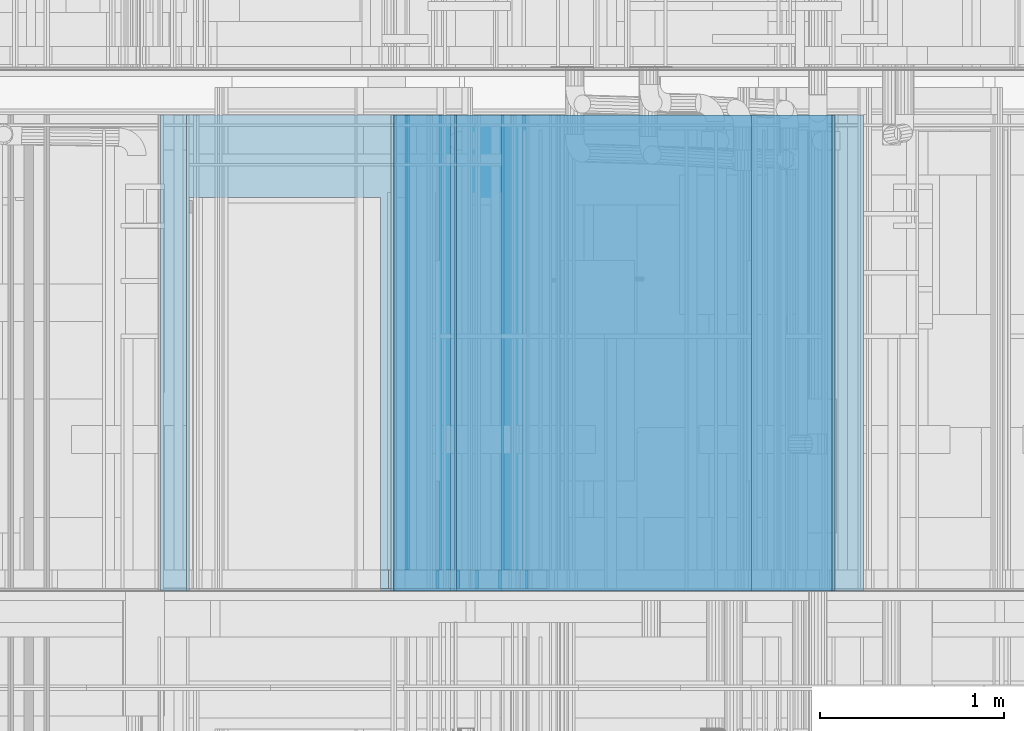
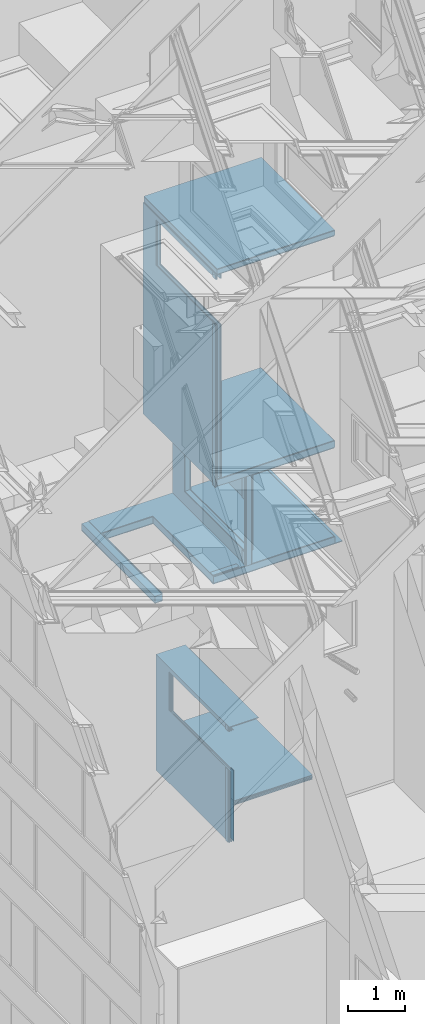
# One storey, part 95 of 583: 33 building element parts, 7 openings, 8 elements without a shape of their own.
"""IFC2X3 building model written with IfcOpenShell, lengths in metres."""

from ifc_helpers import new_model, entity, si_unit, converted_unit, derived_unit, money_unit, direction, frame, frame_2d, origin_with_axes, place, context, subcontext, project, spatial, polyline, rectangle, outline, extrude, material, type_object, element, aggregate, save


model = new_model("IFC2X3")

# Units and contexts
model_context = context("Model", 3, precision=1e-05, world=origin_with_axes(), true_north=direction((0.0, 1.0)))
body_context = subcontext(model_context, "Body", "Model", "MODEL_VIEW", scale=1.0)
ifc_project = project(units=[si_unit("LENGTHUNIT", "METRE"), si_unit("AREAUNIT", "SQUARE_METRE"), si_unit("VOLUMEUNIT", "CUBIC_METRE"), si_unit("ABSORBEDDOSEUNIT", "GRAY"), si_unit("AMOUNTOFSUBSTANCEUNIT", "MOLE"), si_unit("DOSEEQUIVALENTUNIT", "SIEVERT"), si_unit("ELECTRICCAPACITANCEUNIT", "FARAD"), si_unit("ELECTRICCHARGEUNIT", "COULOMB"), si_unit("ELECTRICCONDUCTANCEUNIT", "SIEMENS"), si_unit("ELECTRICCURRENTUNIT", "AMPERE"), si_unit("ELECTRICRESISTANCEUNIT", "OHM"), si_unit("ELECTRICVOLTAGEUNIT", "VOLT"), si_unit("ENERGYUNIT", "JOULE"), si_unit("FORCEUNIT", "NEWTON"), si_unit("FREQUENCYUNIT", "HERTZ"), si_unit("ILLUMINANCEUNIT", "LUX"), si_unit("INDUCTANCEUNIT", "HENRY"), si_unit("LUMINOUSFLUXUNIT", "LUMEN"), si_unit("LUMINOUSINTENSITYUNIT", "CANDELA"), si_unit("MAGNETICFLUXDENSITYUNIT", "TESLA"), si_unit("MAGNETICFLUXUNIT", "WEBER"), si_unit("MASSUNIT", "GRAM"), converted_unit("PLANEANGLEUNIT", "degree", entity("IfcReal", 0.0174532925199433), si_unit("PLANEANGLEUNIT", "RADIAN"), dimensions=[0, 0, 0, 0, 0, 0, 0]), si_unit("POWERUNIT", "WATT"), si_unit("PRESSUREUNIT", "PASCAL"), si_unit("RADIOACTIVITYUNIT", "BECQUEREL"), si_unit("SOLIDANGLEUNIT", "STERADIAN"), si_unit("THERMODYNAMICTEMPERATUREUNIT", "KELVIN"), si_unit("TIMEUNIT", "SECOND"), derived_unit("ACCELERATIONUNIT", [(si_unit("LENGTHUNIT", "METRE"), 1), (si_unit("TIMEUNIT", "SECOND"), -2)]), derived_unit("ANGULARVELOCITYUNIT", [(converted_unit("PLANEANGLEUNIT", "degree", entity("IfcReal", 0.0174532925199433), si_unit("PLANEANGLEUNIT", "RADIAN"), dimensions=[0, 0, 0, 0, 0, 0, 0]), 1), (si_unit("TIMEUNIT", "SECOND"), -1)]), derived_unit("CURVATUREUNIT", [(converted_unit("PLANEANGLEUNIT", "degree", entity("IfcReal", 0.0174532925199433), si_unit("PLANEANGLEUNIT", "RADIAN"), dimensions=[0, 0, 0, 0, 0, 0, 0]), 1), (si_unit("LENGTHUNIT", "METRE"), -1)]), derived_unit("DYNAMICVISCOSITYUNIT", [(si_unit("PRESSUREUNIT", "PASCAL"), 1), (si_unit("TIMEUNIT", "SECOND"), 1)]), derived_unit("HEATFLUXDENSITYUNIT", [(si_unit("POWERUNIT", "WATT"), 1), (si_unit("LENGTHUNIT", "METRE"), -2)]), derived_unit("HEATINGVALUEUNIT", [(si_unit("ENERGYUNIT", "JOULE"), 1), (si_unit("MASSUNIT", "GRAM"), -1)]), derived_unit("INTEGERCOUNTRATEUNIT", [(si_unit("TIMEUNIT", "SECOND"), -1)]), derived_unit("IONCONCENTRATIONUNIT", [(si_unit("MASSUNIT", "GRAM"), 1), (si_unit("VOLUMEUNIT", "CUBIC_METRE"), -1)]), derived_unit("ISOTHERMALMOISTURECAPACITYUNIT", [(si_unit("VOLUMEUNIT", "CUBIC_METRE"), 1), (si_unit("MASSUNIT", "GRAM"), -1)]), derived_unit("KINEMATICVISCOSITYUNIT", [(si_unit("AREAUNIT", "SQUARE_METRE"), 1), (si_unit("TIMEUNIT", "SECOND"), -1)]), derived_unit("LINEARFORCEUNIT", [(si_unit("FORCEUNIT", "NEWTON"), 1), (si_unit("LENGTHUNIT", "METRE"), -1)]), derived_unit("LINEARMOMENTUNIT", [(si_unit("FORCEUNIT", "NEWTON"), 1), (si_unit("LENGTHUNIT", "METRE"), -1)]), derived_unit("LINEARSTIFFNESSUNIT", [(si_unit("FORCEUNIT", "NEWTON"), 1), (si_unit("LENGTHUNIT", "METRE"), -1)]), derived_unit("LINEARVELOCITYUNIT", [(si_unit("LENGTHUNIT", "METRE"), 1), (si_unit("TIMEUNIT", "SECOND"), -1)]), derived_unit("LUMINOUSINTENSITYDISTRIBUTIONUNIT", [(si_unit("LUMINOUSINTENSITYUNIT", "CANDELA"), 1), (si_unit("LUMINOUSFLUXUNIT", "LUMEN"), -1)]), derived_unit("MASSDENSITYUNIT", [(si_unit("MASSUNIT", "GRAM"), 1), (si_unit("VOLUMEUNIT", "CUBIC_METRE"), -1)]), derived_unit("MASSFLOWRATEUNIT", [(si_unit("MASSUNIT", "GRAM"), 1), (si_unit("TIMEUNIT", "SECOND"), -1)]), derived_unit("MASSPERLENGTHUNIT", [(si_unit("MASSUNIT", "GRAM"), 1), (si_unit("LENGTHUNIT", "METRE"), -1)]), derived_unit("MODULUSOFELASTICITYUNIT", [(si_unit("FORCEUNIT", "NEWTON"), 1), (si_unit("AREAUNIT", "SQUARE_METRE"), -1)]), derived_unit("MODULUSOFLINEARSUBGRADEREACTIONUNIT", [(si_unit("FORCEUNIT", "NEWTON"), 1), (si_unit("LENGTHUNIT", "METRE"), -2)]), derived_unit("MODULUSOFROTATIONALSUBGRADEREACTIONUNIT", [(si_unit("FORCEUNIT", "NEWTON"), 1), (si_unit("LENGTHUNIT", "METRE"), 1)]), derived_unit("MODULUSOFSUBGRADEREACTIONUNIT", [(si_unit("FORCEUNIT", "NEWTON"), 1), (si_unit("VOLUMEUNIT", "CUBIC_METRE"), -1)]), derived_unit("MOISTUREDIFFUSIVITYUNIT", [(si_unit("VOLUMEUNIT", "CUBIC_METRE"), 1), (si_unit("TIMEUNIT", "SECOND"), -1)]), derived_unit("MOLECULARWEIGHTUNIT", [(si_unit("MASSUNIT", "GRAM"), 1), (si_unit("AMOUNTOFSUBSTANCEUNIT", "MOLE"), -1)]), derived_unit("PLANARFORCEUNIT", [(si_unit("FORCEUNIT", "NEWTON"), 1), (si_unit("LENGTHUNIT", "METRE"), -2)]), derived_unit("ROTATIONALFREQUENCYUNIT", [(si_unit("TIMEUNIT", "SECOND"), -1)]), derived_unit("ROTATIONALMASSUNIT", [(si_unit("MASSUNIT", "GRAM"), 1), (si_unit("LENGTHUNIT", "METRE"), 2)]), derived_unit("ROTATIONALSTIFFNESSUNIT", [(si_unit("FORCEUNIT", "NEWTON"), 1), (si_unit("LENGTHUNIT", "METRE"), 1), (converted_unit("PLANEANGLEUNIT", "degree", entity("IfcReal", 0.0174532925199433), si_unit("PLANEANGLEUNIT", "RADIAN"), dimensions=[0, 0, 0, 0, 0, 0, 0]), -1)]), derived_unit("SECTIONAREAINTEGRALUNIT", [(si_unit("LENGTHUNIT", "METRE"), 5)]), derived_unit("SECTIONMODULUSUNIT", [(si_unit("LENGTHUNIT", "METRE"), 3)]), derived_unit("SHEARMODULUSUNIT", [(si_unit("FORCEUNIT", "NEWTON"), 1), (si_unit("AREAUNIT", "SQUARE_METRE"), -1)]), derived_unit("SOUNDPOWERUNIT", [(si_unit("ENERGYUNIT", "JOULE"), 1), (si_unit("TIMEUNIT", "SECOND"), -1)]), derived_unit("SPECIFICHEATCAPACITYUNIT", [(si_unit("FORCEUNIT", "NEWTON"), 1), (si_unit("MASSUNIT", "GRAM"), -1), (si_unit("THERMODYNAMICTEMPERATUREUNIT", "KELVIN"), -1)]), derived_unit("TEMPERATUREGRADIENTUNIT", [(si_unit("THERMODYNAMICTEMPERATUREUNIT", "KELVIN"), 1), (si_unit("LENGTHUNIT", "METRE"), -1)]), derived_unit("THERMALADMITTANCEUNIT", [(si_unit("POWERUNIT", "WATT"), 1), (si_unit("AREAUNIT", "SQUARE_METRE"), -1), (si_unit("THERMODYNAMICTEMPERATUREUNIT", "KELVIN"), -1)]), derived_unit("THERMALCONDUCTANCEUNIT", [(si_unit("POWERUNIT", "WATT"), 1), (si_unit("LENGTHUNIT", "METRE"), -1), (si_unit("THERMODYNAMICTEMPERATUREUNIT", "KELVIN"), -1)]), derived_unit("THERMALEXPANSIONCOEFFICIENTUNIT", [(si_unit("THERMODYNAMICTEMPERATUREUNIT", "KELVIN"), -1)]), derived_unit("THERMALRESISTANCEUNIT", [(si_unit("AREAUNIT", "SQUARE_METRE"), 1), (si_unit("POWERUNIT", "WATT"), -1)]), derived_unit("THERMALTRANSMITTANCEUNIT", [(si_unit("POWERUNIT", "WATT"), 1), (si_unit("AREAUNIT", "SQUARE_METRE"), -1), (si_unit("THERMODYNAMICTEMPERATUREUNIT", "KELVIN"), -1)]), derived_unit("TORQUEUNIT", [(si_unit("FORCEUNIT", "NEWTON"), 1), (si_unit("LENGTHUNIT", "METRE"), 1)]), derived_unit("VAPORPERMEABILITYUNIT", [(si_unit("MASSUNIT", "GRAM"), 1), (si_unit("TIMEUNIT", "SECOND"), -1)]), derived_unit("VOLUMETRICFLOWRATEUNIT", [(si_unit("VOLUMEUNIT", "CUBIC_METRE"), 1), (si_unit("TIMEUNIT", "SECOND"), -1)]), derived_unit("WARPINGCONSTANTUNIT", [(si_unit("LENGTHUNIT", "METRE"), 6)]), derived_unit("WARPINGMOMENTUNIT", [(si_unit("FORCEUNIT", "NEWTON"), 1), (si_unit("LENGTHUNIT", "METRE"), 2)]), money_unit("GBP")], contexts=[model_context])

# Site, building, storey
site_placement = place(None, origin_with_axes())
site = spatial("IfcSite", under=ifc_project, at=site_placement, Name="Site", CompositionType="ELEMENT")
building_placement = place(site_placement, origin_with_axes())
building = spatial("IfcBuilding", under=site, at=building_placement, Name="Building01", CompositionType="ELEMENT")
storey_placement = place(building_placement, frame((0.0, 0.0, 20.78), z_axis=(0.0, 0.0, 1.0), x_axis=(1.0, 0.0, 0.0)))
storey = spatial("IfcBuildingStorey", under=building, at=storey_placement, Name="RL", CompositionType="ELEMENT", Elevation=20.78)

# Wall, openings, building element parts
wall_type_1 = type_object("IfcWallType", Name="SHE_A-Walls_Type03a_BlockworkWall_170mm", PredefinedType="NOTDEFINED")
wall_1_placement = place(storey_placement, frame((8.665, 12.13, -11.705), z_axis=(0.0, 1.0, 0.0), x_axis=(-1.0, 0.0, 0.0)))
wall_1 = element("IfcWall", 1, at=wall_1_placement, inside=storey, type_object=wall_type_1, Name="4B", ObjectType="SHE_A-Walls_Type03a_BlockworkWall_170mm")
opening_1_placement = place(wall_1_placement, frame((2.527281, 0.175, 0.0), z_axis=(0.0, 0.0, 1.0), x_axis=(1.0, 0.0, 0.0)))
element("IfcOpeningElement", 2, at=opening_1_placement, cuts=wall_1, Name="Opening", ObjectType="Opening", context=body_context, shape_type="SweptSolid", body=[
    extrude(rectangle(XDim=0.984, YDim=2.142, at=frame_2d((-0.492, 1.071), x_axis=(1.0, 0.0))), frame((0.0, -0.2625, 0.0), z_axis=(0.0, 1.0, 0.0), x_axis=(-1.0, 0.0, 0.0)), (0.0, 0.0, 1.0), 0.525),
])
opening_2_placement = place(wall_1_placement, frame((2.473, 0.155, 0.0), z_axis=(0.0, 0.0, 1.0), x_axis=(1.0, 0.0, 0.0)))
element("IfcOpeningElement", 3, at=opening_2_placement, cuts=wall_1, Name="Opening", ObjectType="Opening", context=body_context, shape_type="SweptSolid", body=[
    extrude(rectangle(XDim=2.142, YDim=0.984, at=frame_2d((-0.492, 1.071), x_axis=(0.0, -1.0))), frame((0.0, -0.2325, 0.0), z_axis=(0.0, 1.0, 0.0), x_axis=(-1.0, 0.0, 0.0)), (0.0, 0.0, 1.0), 0.465),
])
ifc_material_1 = material(Name="A_BSUK_WallsInternal_Block")
placement_1 = place(wall_1_placement, origin_with_axes())
building_element_part_1 = element("IfcBuildingElementPart", 4, at=placement_1, material=ifc_material_1, Name="1", context=body_context, shape_type="SweptSolid", body=[
    extrude(rectangle(XDim=3.67, YDim=0.14, at=frame_2d((1.835, 0.07), x_axis=(-1.0, 0.0))), origin_with_axes(), (0.0, 0.0, 1.0), 2.59),
])
ifc_material_2 = material(Name="A_BSUK_Walls_Timber")
building_element_part_2 = element("IfcBuildingElementPart", 5, at=placement_1, material=ifc_material_2, Name="2", context=body_context, shape_type="SweptSolid", body=[
    extrude(outline(polyline([(3.5, 0.17), (1.940919, 0.17), (1.955919, 0.155), (3.5, 0.155), (3.5, 0.17)])), frame((0.0, 0.0, 0.015), z_axis=(0.0, 0.0, 1.0), x_axis=(1.0, 0.0, 0.0)), (0.0, 0.0, 1.0), 0.1),
])
ifc_material_3 = material(Name="A_BSUK_WallInternal_Finishes_Plaster")
building_element_part_3 = element("IfcBuildingElementPart", 6, at=placement_1, material=ifc_material_3, Name="3", context=body_context, shape_type="SweptSolid", body=[
    extrude(rectangle(XDim=1.67, YDim=0.015, at=frame_2d((0.85, 0.1475), x_axis=(-1.0, 0.0))), origin_with_axes(), (0.0, 0.0, 1.0), 2.59),
])
ifc_material_4 = material(Name="A_BSUK_WallInternal_Finishes_Plasterboard")
building_element_part_4 = element("IfcBuildingElementPart", 7, at=placement_1, material=ifc_material_4, Name="4", context=body_context, shape_type="SweptSolid", body=[
    extrude(rectangle(XDim=3.825, YDim=0.015, at=frame_2d((1.7575, -0.0075), x_axis=(-1.0, 0.0))), origin_with_axes(), (0.0, 0.0, 1.0), 2.59),
])
building_element_part_5 = element("IfcBuildingElementPart", 8, at=placement_1, material=ifc_material_2, Name="5", context=body_context, shape_type="SweptSolid", body=[
    extrude(rectangle(XDim=1.883405, YDim=0.015, at=frame_2d((2.503298, -0.0225), x_axis=(-1.0, 0.0))), frame((0.0, 0.0, 0.015), z_axis=(0.0, 0.0, 1.0), x_axis=(1.0, 0.0, 0.0)), (0.0, 0.0, 1.0), 0.1),
])
building_element_part_6 = element("IfcBuildingElementPart", 9, at=placement_1, material=ifc_material_3, Name="6", context=body_context, shape_type="SweptSolid", body=[
    extrude(rectangle(XDim=1.715, YDim=0.015, at=frame_2d((2.6725, 0.1475), x_axis=(-1.0, 0.0))), origin_with_axes(), (0.0, 0.0, 1.0), 2.59),
])
aggregate(wall_1, [building_element_part_1, building_element_part_2, building_element_part_3, building_element_part_4, building_element_part_5, building_element_part_6])

wall_type_2 = type_object("IfcWallType", Name="SHE_A-Walls_Type04a_BlockworkWall_130mm", PredefinedType="NOTDEFINED")
wall_2_placement = place(storey_placement, frame((6.965, 12.13, -9.635), z_axis=(0.0, 1.0, 0.0), x_axis=(0.0, 0.0, -1.0)))
wall_2 = element("IfcWall", 10, at=wall_2_placement, inside=storey, type_object=wall_type_2, Name="4A", ObjectType="SHE_A-Walls_Type04a_BlockworkWall_130mm")
opening_3_placement = place(wall_2_placement, frame((0.553302, 0.286454, 0.03), z_axis=(0.0, 0.0, 1.0), x_axis=(1.0, 0.0, 0.0)))
element("IfcOpeningElement", 11, at=opening_3_placement, cuts=wall_2, Name="Opening", ObjectType="Opening", context=body_context, shape_type="SweptSolid", body=[
    extrude(rectangle(XDim=2.14, YDim=1.08, at=frame_2d((-0.54, 1.07), x_axis=(0.0, -1.0))), frame((0.0, -0.429681, 0.0), z_axis=(0.0, 1.0, 0.0), x_axis=(-1.0, 0.0, 0.0)), (0.0, 0.0, 1.0), 0.859361),
])
opening_4_placement = place(wall_2_placement, frame((0.5, 0.14, 0.03), z_axis=(0.0, 0.0, 1.0), x_axis=(1.0, 0.0, 0.0)))
element("IfcOpeningElement", 12, at=opening_4_placement, cuts=wall_2, Name="Opening", ObjectType="Opening", context=body_context, shape_type="SweptSolid", body=[
    extrude(rectangle(XDim=2.14, YDim=1.08, at=frame_2d((-0.54, 1.07), x_axis=(0.0, -1.0))), frame((0.0, -0.21, 0.0), z_axis=(0.0, 1.0, 0.0), x_axis=(-1.0, 0.0, 0.0)), (0.0, 0.0, 1.0), 0.42),
])
placement_2 = place(wall_2_placement, origin_with_axes())
building_element_part_7 = element("IfcBuildingElementPart", 13, at=placement_2, material=ifc_material_1, Name="1", context=body_context, shape_type="SweptSolid", body=[
    extrude(rectangle(XDim=1.93, YDim=0.1, at=frame_2d((0.965, 0.05), x_axis=(-1.0, 0.0))), origin_with_axes(), (0.0, 0.0, 1.0), 2.59),
])
building_element_part_8 = element("IfcBuildingElementPart", 14, at=placement_2, material=ifc_material_2, Name="2", context=body_context, shape_type="SweptSolid", body=[
    extrude(outline(polyline([(1.9, 0.13), (0.03, 0.13), (0.015, 0.115), (1.9, 0.115), (1.9, 0.13)])), frame((0.0, 0.0, 0.015), z_axis=(0.0, 0.0, 1.0), x_axis=(1.0, 0.0, 0.0)), (0.0, 0.0, 1.0), 0.1),
])
building_element_part_9 = element("IfcBuildingElementPart", 15, at=placement_2, material=ifc_material_3, Name="3", context=body_context, shape_type="SweptSolid", body=[
    extrude(outline(polyline([(1.93, 0.115), (0.015, 0.115), (0.0, 0.1), (1.93, 0.1), (1.93, 0.115)])), origin_with_axes(), (0.0, 0.0, 1.0), 2.59),
])
building_element_part_10 = element("IfcBuildingElementPart", 16, at=placement_2, material=ifc_material_4, Name="4", context=body_context, shape_type="SweptSolid", body=[
    extrude(outline(polyline([(1.93, 0.0), (0.0, 0.0), (0.015, -0.015), (1.93, -0.015), (1.93, 0.0)])), origin_with_axes(), (0.0, 0.0, 1.0), 2.59),
])
building_element_part_11 = element("IfcBuildingElementPart", 17, at=placement_2, material=ifc_material_2, Name="5", context=body_context, shape_type="SweptSolid", body=[
    extrude(outline(polyline([(0.0, -0.015), (0.015, -0.03), (1.633302, -0.03), (1.633302, -0.015), (0.0, -0.015)])), frame((0.0, 0.0, 0.015), z_axis=(0.0, 0.0, 1.0), x_axis=(1.0, 0.0, 0.0)), (0.0, 0.0, 1.0), 0.1),
])
aggregate(wall_2, [building_element_part_7, building_element_part_8, building_element_part_9, building_element_part_10, building_element_part_11])

# Wall, building element parts
wall_3_placement = place(storey_placement, frame((6.263, 12.13, -9.635), z_axis=(0.0, 1.0, 0.0), x_axis=(1.0, 0.0, 0.0)))
wall_3 = element("IfcWall", 18, at=wall_3_placement, inside=storey, type_object=wall_type_1, Name="4B", ObjectType="SHE_A-Walls_Type03a_BlockworkWall_170mm")
placement_3 = place(wall_3_placement, origin_with_axes())
building_element_part_12 = element("IfcBuildingElementPart", 19, at=placement_3, material=ifc_material_1, Name="1", context=body_context, shape_type="SweptSolid", body=[
    extrude(rectangle(XDim=2.402, YDim=0.14, at=frame_2d((1.201, -0.07), x_axis=(-1.0, 0.0))), origin_with_axes(), (0.0, 0.0, 1.0), 2.59),
])
building_element_part_13 = element("IfcBuildingElementPart", 20, at=placement_3, material=ifc_material_4, Name="4", context=body_context, shape_type="SweptSolid", body=[
    extrude(rectangle(XDim=2.387, YDim=0.015, at=frame_2d((1.1935, -0.1475), x_axis=(-1.0, 0.0))), origin_with_axes(), (0.0, 0.0, 1.0), 2.59),
])
building_element_part_14 = element("IfcBuildingElementPart", 21, at=placement_3, material=ifc_material_3, Name="6", context=body_context, shape_type="SweptSolid", body=[
    extrude(outline(polyline([(2.387, 0.015), (0.717, 0.015), (0.702, 0.0), (2.387, 0.0), (2.387, 0.015)])), origin_with_axes(), (0.0, 0.0, 1.0), 2.59),
])
aggregate(wall_3, [building_element_part_12, building_element_part_13, building_element_part_14])

wall_type_3 = type_object("IfcWallType", Name="SHE_A-Walls_Type05a_Partition_95mm_tall", PredefinedType="NOTDEFINED")
wall_4_placement = place(storey_placement, frame((6.571475, 12.13, -16.57427), z_axis=(0.0, 1.0, 0.0), x_axis=(1.0, 0.0, 0.0)))
wall_4 = element("IfcWall", 22, at=wall_4_placement, inside=storey, type_object=wall_type_3, Name="5A", ObjectType="SHE_A-Walls_Type05a_Partition_95mm_tall")
ifc_material_5 = material(Name="A_BSUK_Insulation")
placement_4 = place(wall_4_placement, origin_with_axes())
building_element_part_15 = element("IfcBuildingElementPart", 23, at=placement_4, material=ifc_material_5, Name="1", context=body_context, shape_type="SweptSolid", body=[
    extrude(rectangle(XDim=1.639195, YDim=0.025, at=frame_2d((0.819597, 0.0125), x_axis=(-1.0, 0.0))), origin_with_axes(), (0.0, 0.0, 1.0), 2.59),
])
building_element_part_16 = element("IfcBuildingElementPart", 24, at=placement_4, material=ifc_material_4, Name="4", context=body_context, shape_type="SweptSolid", body=[
    extrude(rectangle(XDim=1.604195, YDim=0.012, at=frame_2d((0.837097, 0.054), x_axis=(-1.0, 0.0))), origin_with_axes(), (0.0, 0.0, 1.0), 2.59),
])
building_element_part_17 = element("IfcBuildingElementPart", 25, at=placement_4, material=ifc_material_4, Name="5", context=body_context, shape_type="SweptSolid", body=[
    extrude(rectangle(XDim=1.604195, YDim=0.012, at=frame_2d((0.837097, -0.029), x_axis=(-1.0, 0.0))), origin_with_axes(), (0.0, 0.0, 1.0), 2.59),
])
aggregate(wall_4, [building_element_part_15, building_element_part_16, building_element_part_17])

wall_5_placement = place(storey_placement, frame((8.665, 12.13, -5.065), z_axis=(0.0, 1.0, 0.0), x_axis=(-1.0, 0.0, 0.0)))
wall_5 = element("IfcWall", 26, at=wall_5_placement, inside=storey, type_object=wall_type_2, Name="4A", ObjectType="SHE_A-Walls_Type04a_BlockworkWall_130mm")
placement_5 = place(wall_5_placement, origin_with_axes())
building_element_part_18 = element("IfcBuildingElementPart", 27, at=placement_5, material=ifc_material_1, Name="1", context=body_context, shape_type="SweptSolid", body=[
    extrude(rectangle(XDim=0.1, YDim=2.4, at=frame_2d((1.2, 0.05), x_axis=(0.0, -1.0))), origin_with_axes(), (0.0, 0.0, 1.0), 2.59),
])
building_element_part_19 = element("IfcBuildingElementPart", 28, at=placement_5, material=ifc_material_3, Name="3", context=body_context, shape_type="SweptSolid", body=[
    extrude(rectangle(XDim=0.015, YDim=2.4, at=frame_2d((1.2, 0.1075), x_axis=(0.0, -1.0))), origin_with_axes(), (0.0, 0.0, 1.0), 2.59),
])
building_element_part_20 = element("IfcBuildingElementPart", 29, at=placement_5, material=ifc_material_4, Name="4", context=body_context, shape_type="SweptSolid", body=[
    extrude(rectangle(XDim=2.385, YDim=0.015, at=frame_2d((1.2075, -0.0075), x_axis=(-1.0, 0.0))), origin_with_axes(), (0.0, 0.0, 1.0), 2.59),
])
aggregate(wall_5, [building_element_part_18, building_element_part_19, building_element_part_20])

# Wall, openings, building element parts
wall_6_placement = place(storey_placement, frame((6.571475, 12.13, -14.950331), z_axis=(0.0, 1.0, 0.0), x_axis=(0.0, 0.0, -1.0)))
wall_6 = element("IfcWall", 30, at=wall_6_placement, inside=storey, type_object=wall_type_3, Name="5A", ObjectType="SHE_A-Walls_Type05a_Partition_95mm_tall")
opening_5_placement = place(wall_6_placement, frame((0.058581, -0.115, -0.015), z_axis=(0.0, 0.0, 1.0), x_axis=(1.0, 0.0, 0.0)))
element("IfcOpeningElement", 31, at=opening_5_placement, cuts=wall_6, Name="Opening", ObjectType="Opening", context=body_context, shape_type="SweptSolid", body=[
    extrude(rectangle(XDim=0.834, YDim=2.142, at=frame_2d((0.417, 1.071), x_axis=(-1.0, 0.0))), frame((0.0, 0.21, 0.0), z_axis=(0.0, -1.0, 0.0), x_axis=(1.0, 0.0, 0.0)), (0.0, 0.0, 1.0), 0.42),
])
opening_6_placement = place(wall_6_placement, frame((0.108581, -0.035, 0.0), z_axis=(0.0, 0.0, 1.0), x_axis=(1.0, 0.0, 0.0)))
element("IfcOpeningElement", 32, at=opening_6_placement, cuts=wall_6, Name="Opening", ObjectType="Opening", context=body_context, shape_type="SweptSolid", body=[
    extrude(rectangle(XDim=2.142, YDim=0.834, at=frame_2d((0.417, 1.071), x_axis=(0.0, -1.0))), frame((0.0, 0.09, 0.0), z_axis=(0.0, -1.0, 0.0), x_axis=(1.0, 0.0, 0.0)), (0.0, 0.0, 1.0), 0.18),
])
placement_6 = place(wall_6_placement, origin_with_axes())
building_element_part_21 = element("IfcBuildingElementPart", 33, at=placement_6, material=ifc_material_5, Name="1", context=body_context, shape_type="SweptSolid", body=[
    extrude(rectangle(XDim=0.025, YDim=2.458939, at=frame_2d((1.229469, 0.0125), x_axis=(0.0, -1.0))), origin_with_axes(), (0.0, 0.0, 1.0), 2.59),
])
building_element_part_22 = element("IfcBuildingElementPart", 34, at=placement_6, material=ifc_material_2, Name="2", context=body_context, shape_type="SweptSolid", body=[
    extrude(outline(polyline([(-0.05, 0.075), (-0.035, 0.06), (2.458939, 0.06), (2.458939, 0.075), (-0.05, 0.075)])), frame((0.0, 0.0, 0.015), z_axis=(0.0, 0.0, 1.0), x_axis=(1.0, 0.0, 0.0)), (0.0, 0.0, 1.0), 0.1),
])
building_element_part_23 = element("IfcBuildingElementPart", 35, at=placement_6, material=ifc_material_2, Name="3", context=body_context, shape_type="SweptSolid", body=[
    extrude(outline(polyline([(1.588939, -0.035), (0.06, -0.035), (0.075, -0.05), (1.588939, -0.05), (1.588939, -0.035)])), frame((0.0, 0.0, 0.015), z_axis=(0.0, 0.0, 1.0), x_axis=(1.0, 0.0, 0.0)), (0.0, 0.0, 1.0), 0.1),
])
building_element_part_24 = element("IfcBuildingElementPart", 36, at=placement_6, material=ifc_material_2, Name="4", context=body_context, shape_type="SweptSolid", body=[
    extrude(outline(polyline([(0.06, -0.035), (0.075, -0.05), (2.458939, -0.05), (2.458939, -0.035), (0.06, -0.035)])), frame((0.0, 0.0, 0.015), z_axis=(0.0, 0.0, 1.0), x_axis=(1.0, 0.0, 0.0)), (0.0, 0.0, 1.0), 0.1),
])
building_element_part_25 = element("IfcBuildingElementPart", 37, at=placement_6, material=ifc_material_4, Name="5", context=body_context, shape_type="SweptSolid", body=[
    extrude(outline(polyline([(-0.035, 0.06), (-0.023, 0.048), (2.458939, 0.048), (2.458939, 0.06), (-0.035, 0.06)])), origin_with_axes(), (0.0, 0.0, 1.0), 2.59),
])
building_element_part_26 = element("IfcBuildingElementPart", 38, at=placement_6, material=ifc_material_4, Name="6", context=body_context, shape_type="SweptSolid", body=[
    extrude(outline(polyline([(1.600939, -0.023), (0.048, -0.023), (0.06, -0.035), (1.600939, -0.035), (1.600939, -0.023)])), origin_with_axes(), (0.0, 0.0, 1.0), 2.59),
])
building_element_part_27 = element("IfcBuildingElementPart", 39, at=placement_6, material=ifc_material_4, Name="7", context=body_context, shape_type="SweptSolid", body=[
    extrude(rectangle(XDim=0.012, YDim=0.787, at=frame_2d((2.065439, -0.029), x_axis=(0.0, -1.0))), origin_with_axes(), (0.0, 0.0, 1.0), 2.59),
])
aggregate(wall_6, [building_element_part_21, building_element_part_22, building_element_part_23, building_element_part_24, building_element_part_25, building_element_part_26, building_element_part_27])

# Wall, building element part
wall_7_placement = place(storey_placement, frame((6.571475, 12.13, -14.975331), z_axis=(0.0, 1.0, 0.0), x_axis=(1.0, 0.0, 0.0)))
wall_7 = element("IfcWall", 40, at=wall_7_placement, inside=storey, type_object=wall_type_3, Name="5A", ObjectType="SHE_A-Walls_Type05a_Partition_95mm_tall")
building_element_part_28_placement = place(wall_7_placement, origin_with_axes())
building_element_part_28 = element("IfcBuildingElementPart", 41, at=building_element_part_28_placement, material=ifc_material_4, Name="4", context=body_context, shape_type="SweptSolid", body=[
    extrude(outline(polyline([(0.552, -0.048), (-0.048, -0.048), (-0.06, -0.06), (0.54, -0.06), (0.552, -0.048)])), origin_with_axes(), (0.0, 0.0, 1.0), 2.59),
])
aggregate(wall_7, [building_element_part_28])

# Wall, opening, building element parts
wall_type_4 = type_object("IfcWallType", Name="SHE_A-Walls_Type03c_Firewall_F120_100mm", PredefinedType="NOTDEFINED")
wall_8_placement = place(storey_placement, frame((6.25, 12.145, -9.665), z_axis=(0.0, 1.0, 0.0), x_axis=(0.0, 0.0, 1.0)))
wall_8 = element("IfcWall", 42, at=wall_8_placement, inside=storey, type_object=wall_type_4, Name="3C", ObjectType="SHE_A-Walls_Type03c_Firewall_F120_100mm")
opening_7_placement = place(wall_8_placement, frame((3.501, 0.2, -0.03), z_axis=(0.0, 0.0, 1.0), x_axis=(1.0, 0.0, 0.0)))
element("IfcOpeningElement", 43, at=opening_7_placement, cuts=wall_8, Name="Opening", ObjectType="Opening", context=body_context, shape_type="SweptSolid", body=[
    extrude(rectangle(XDim=0.984, YDim=2.142, at=frame_2d((-0.492, 1.071), x_axis=(1.0, 0.0))), frame((0.0, -5.384541, 0.0), z_axis=(0.0, 1.0, 0.0), x_axis=(-1.0, 0.0, 0.0)), (0.0, 0.0, 1.0), 10.769082),
])
placement_7 = place(wall_8_placement, origin_with_axes())
building_element_part_29 = element("IfcBuildingElementPart", 44, at=placement_7, material=ifc_material_2, Name="1", context=body_context, shape_type="SweptSolid", body=[
    extrude(outline(polyline([(4.585, 0.0), (0.0, 0.0), (0.0, -0.015), (4.57, -0.015), (4.585, 0.0)])), origin_with_axes(), (0.0, 0.0, 1.0), 0.1),
])
building_element_part_30 = element("IfcBuildingElementPart", 45, at=placement_7, material=ifc_material_4, Name="2", context=body_context, shape_type="SweptSolid", body=[
    extrude(rectangle(XDim=4.555, YDim=0.013, at=frame_2d((2.3075, 0.0065), x_axis=(-1.0, 0.0))), frame((0.0, 0.0, -0.015), z_axis=(0.0, 0.0, 1.0), x_axis=(1.0, 0.0, 0.0)), (0.0, 0.0, 1.0), 2.59),
])
building_element_part_31 = element("IfcBuildingElementPart", 46, at=placement_7, material=ifc_material_4, Name="3", context=body_context, shape_type="SweptSolid", body=[
    extrude(rectangle(XDim=4.4, YDim=0.013, at=frame_2d((2.385, 0.0935), x_axis=(-1.0, 0.0))), frame((0.0, 0.0, -0.015), z_axis=(0.0, 0.0, 1.0), x_axis=(1.0, 0.0, 0.0)), (0.0, 0.0, 1.0), 2.59),
])
building_element_part_32 = element("IfcBuildingElementPart", 47, at=placement_7, material=ifc_material_4, Name="4", context=body_context, shape_type="SweptSolid", body=[
    extrude(rectangle(XDim=4.4, YDim=0.012, at=frame_2d((2.385, 0.019), x_axis=(-1.0, 0.0))), frame((0.0, 0.0, -0.015), z_axis=(0.0, 0.0, 1.0), x_axis=(1.0, 0.0, 0.0)), (0.0, 0.0, 1.0), 2.59),
])
building_element_part_33 = element("IfcBuildingElementPart", 48, at=placement_7, material=ifc_material_4, Name="5", context=body_context, shape_type="SweptSolid", body=[
    extrude(rectangle(XDim=4.4, YDim=0.012, at=frame_2d((2.385, 0.081), x_axis=(-1.0, 0.0))), frame((0.0, 0.0, -0.015), z_axis=(0.0, 0.0, 1.0), x_axis=(1.0, 0.0, 0.0)), (0.0, 0.0, 1.0), 2.59),
])
aggregate(wall_8, [building_element_part_29, building_element_part_30, building_element_part_31, building_element_part_32, building_element_part_33])

save(model, "model.ifc")
